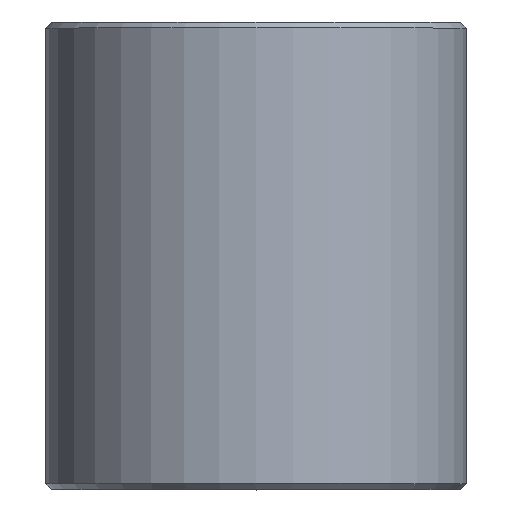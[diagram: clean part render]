
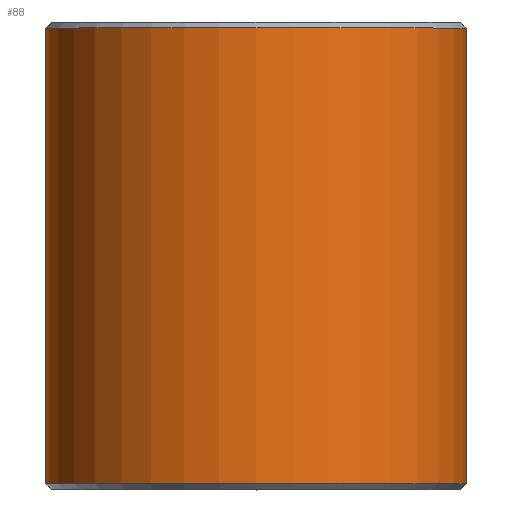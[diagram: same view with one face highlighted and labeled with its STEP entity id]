
A CAD part, top view. The second image highlights one B-rep face of the part: STEP entity #88.
In plain terms, the highlighted cylindrical face has radius 9 mm (diameter 18 mm), a full revolution.
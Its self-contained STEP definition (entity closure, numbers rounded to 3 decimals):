
#19=CYLINDRICAL_SURFACE('',#110,9.);
#22=FACE_OUTER_BOUND('',#28,.T.);
#28=EDGE_LOOP('',(#69,#70,#71,#72));
#36=LINE('',#159,#40);
#40=VECTOR('',#132,9.);
#43=CIRCLE('',#108,9.);
#45=CIRCLE('',#111,9.);
#49=VERTEX_POINT('',#151);
#51=VERTEX_POINT('',#157);
#55=EDGE_CURVE('',#49,#49,#43,.T.);
#58=EDGE_CURVE('',#51,#51,#45,.T.);
#59=EDGE_CURVE('',#51,#49,#36,.T.);
#69=ORIENTED_EDGE('',*,*,#58,.F.);
#70=ORIENTED_EDGE('',*,*,#59,.T.);
#71=ORIENTED_EDGE('',*,*,#55,.F.);
#72=ORIENTED_EDGE('',*,*,#59,.F.);
#88=ADVANCED_FACE('',(#22),#19,.T.);
#108=AXIS2_PLACEMENT_3D('',#152,#123,#124);
#110=AXIS2_PLACEMENT_3D('',#156,#128,#129);
#111=AXIS2_PLACEMENT_3D('',#158,#130,#131);
#123=DIRECTION('center_axis',(0.,-1.,0.));
#124=DIRECTION('ref_axis',(1.,0.,0.));
#128=DIRECTION('center_axis',(0.,1.,0.));
#129=DIRECTION('ref_axis',(1.,0.,0.));
#130=DIRECTION('center_axis',(0.,1.,0.));
#131=DIRECTION('ref_axis',(1.,0.,0.));
#132=DIRECTION('',(0.,-1.,0.));
#151=CARTESIAN_POINT('',(-9.,0.25,0.));
#152=CARTESIAN_POINT('Origin',(0.,0.25,0.));
#156=CARTESIAN_POINT('Origin',(0.,0.,0.));
#157=CARTESIAN_POINT('',(-9.,19.75,0.));
#158=CARTESIAN_POINT('Origin',(0.,19.75,0.));
#159=CARTESIAN_POINT('',(-9.,0.,0.));
